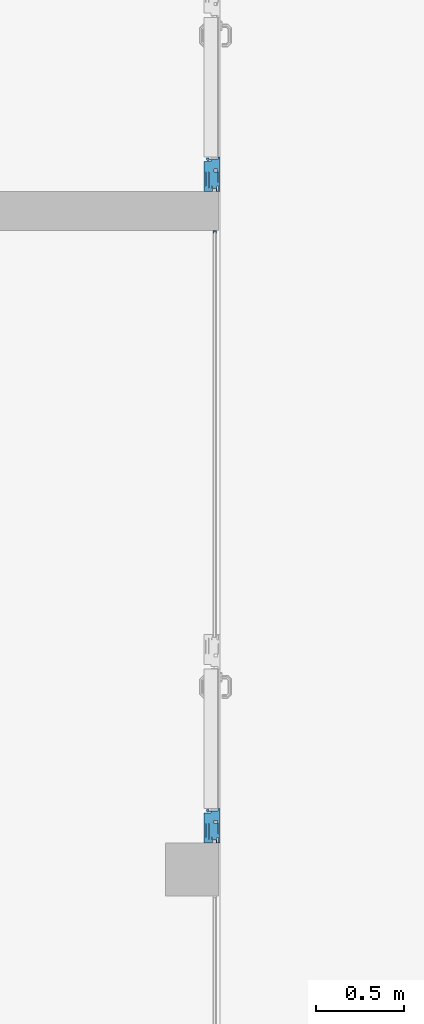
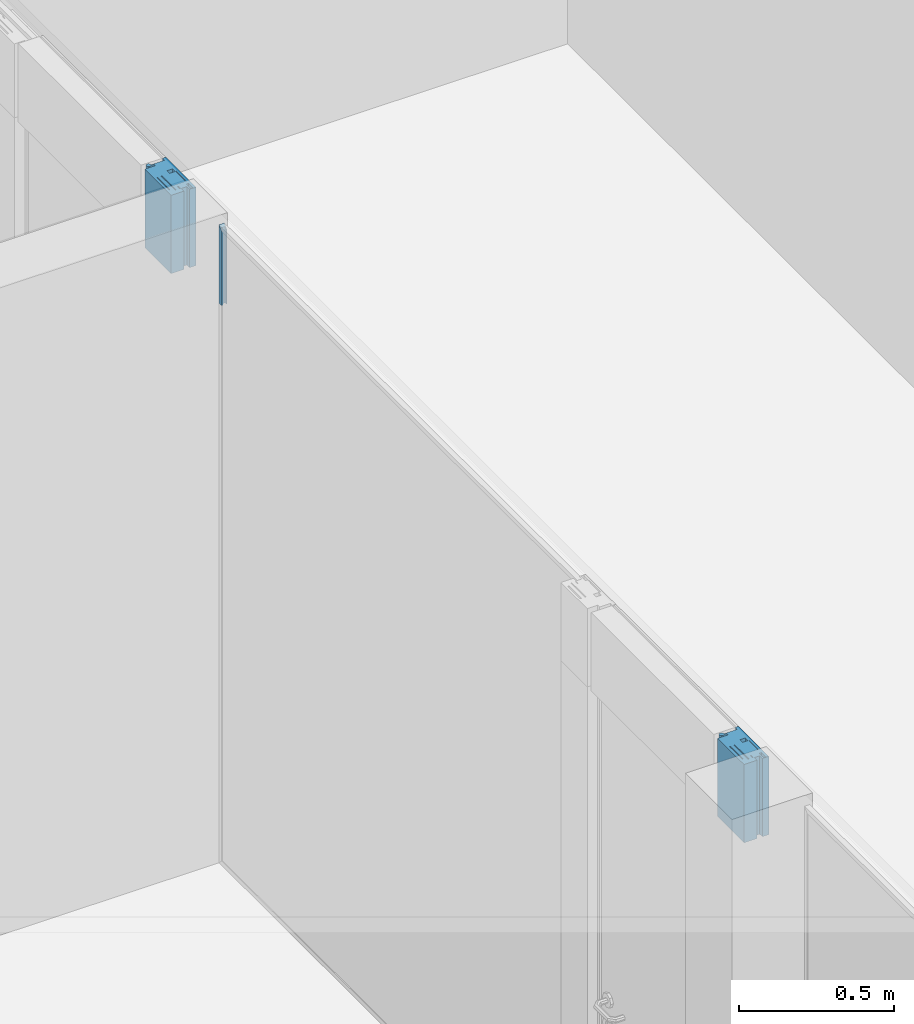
# One storey, part 17 of 79: 3 members, 2 elements without a shape of their own.
"""IFC2X3 building model written with IfcOpenShell, lengths in millimetres."""

from ifc_helpers import new_model, entity, si_unit, converted_unit, derived_unit, money_unit, direction, frame, origin_with_axes, place, context, subcontext, project, spatial, faceted_brep, source, transform, mapped, material, material_list, type_object, element, aggregate, save


model = new_model("IFC2X3")

# Units and contexts
model_context = context("Model", 3, precision=0.01, world=origin_with_axes(), true_north=direction((0.0, 1.0)))
body_context = subcontext(model_context, "Body", "Model", "MODEL_VIEW")
ifc_project = project(units=[si_unit("LENGTHUNIT", "METRE", prefix="MILLI"), si_unit("AREAUNIT", "SQUARE_METRE"), si_unit("VOLUMEUNIT", "CUBIC_METRE"), converted_unit("PLANEANGLEUNIT", "DEGREE", entity("IfcPlaneAngleMeasure", 0.0174532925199), si_unit("PLANEANGLEUNIT", "RADIAN"), dimensions=[0, 0, 0, 0, 0, 0, 0]), si_unit("SOLIDANGLEUNIT", "STERADIAN"), money_unit("EUR"), converted_unit("TIMEUNIT", "Year", entity("IfcTimeMeasure", 31556926.0), si_unit("TIMEUNIT", "SECOND"), dimensions=[0, 0, 1, 0, 0, 0, 0]), si_unit("MASSUNIT", "GRAM", prefix="KILO"), si_unit("THERMODYNAMICTEMPERATUREUNIT", "DEGREE_CELSIUS"), si_unit("LUMINOUSINTENSITYUNIT", "LUMEN"), si_unit("ENERGYUNIT", "JOULE", prefix="MEGA"), derived_unit("THERMALCONDUCTANCEUNIT", [(si_unit("POWERUNIT", "WATT"), 1), (si_unit("LENGTHUNIT", "METRE"), -1), (si_unit("THERMODYNAMICTEMPERATUREUNIT", "KELVIN"), -1)]), derived_unit("SPECIFICHEATCAPACITYUNIT", [(si_unit("ENERGYUNIT", "JOULE"), 1), (si_unit("MASSUNIT", "GRAM", prefix="KILO"), -1), (si_unit("THERMODYNAMICTEMPERATUREUNIT", "KELVIN"), -1)]), derived_unit("MASSDENSITYUNIT", [(si_unit("MASSUNIT", "GRAM", prefix="KILO"), 1), (si_unit("VOLUMEUNIT", "CUBIC_METRE"), -1)])], contexts=[model_context])

# Site, building, storey
site_placement = place(None, origin_with_axes())
site = spatial("IfcSite", under=ifc_project, at=site_placement, Name="L.Koidula tn 11b", CompositionType="ELEMENT")
building_placement = place(site_placement, origin_with_axes())
building = spatial("IfcBuilding", under=site, at=building_placement, Name="Rakvere Riigigümnaasium", CompositionType="ELEMENT")
storey_placement = place(building_placement, frame((0.0, 0.0, 3720.0), z_axis=(0.0, 0.0, 1.0), x_axis=(1.0, 0.0, 0.0)))
storey = spatial("IfcBuildingStorey", under=building, at=storey_placement, Name="2.korrus +3,72", CompositionType="ELEMENT", Elevation=3720.0)

# Curtain wall, member
curtain_wall_type = type_object("IfcCurtainWallType", Name="Curtain Wall Type", PredefinedType="NOTDEFINED")
curtain_wall_1_placement = place(storey_placement, frame((41130.915445, 24920.4555468, 0.0), z_axis=(0.0, 0.0, 1.0), x_axis=(1.0, 0.0, 0.0)))
curtain_wall_1 = element("IfcCurtainWall", 1, at=curtain_wall_1_placement, inside=storey, type_object=curtain_wall_type, Name="SKLF-15")
ifc_material_1 = material(Name="Puit")
ifc_material_2 = material(Name="Klaasvill")
ifc_material_3 = material(Name="MDF")
ifc_material_4 = material(Name="Alumiiniumprofiil")
ifc_material_5 = material(Name="Teras")
ifc_material_list_1 = material_list([ifc_material_1, ifc_material_2, ifc_material_3, ifc_material_4, ifc_material_5])
member_type_1 = type_object("IfcMemberType", Name="Siseklaasfassaad - Ukseraam hing- klaasita-2 195 x 29", PredefinedType="MULLION")
shared_shape_1 = source(origin_with_axes(), body_context, "Body", "Brep", [
    faceted_brep([(139.859682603, -15.116905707, 0.0), (181.717061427, -15.116905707, 0.0), (181.717061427, -15.116905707, 308.0), (139.859682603, -15.116905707, 308.0), (139.859682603, 50.9999990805, 0.0), (169.859682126, 50.9999990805, 0.0), (169.859683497, 23.9999989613, 0.0), (178.395629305, 23.9999989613, 0.0), (178.395629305, -8.00000062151, 0.0), (181.855103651, -8.00000062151, 0.0), (181.855103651, -15.116905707, 0.0), (181.855103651, -15.116905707, 308.0), (181.855103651, -8.00000062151, 308.0), (178.395629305, -8.00000062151, 308.0), (178.395629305, 23.9999989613, 308.0), (169.859683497, 23.9999989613, 308.0), (169.859682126, 50.9999990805, 308.0), (139.859682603, 50.9999990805, 308.0)], [[[0, 1, 2, 3]], [[0, 4, 5, 6, 7, 8, 9, 10, 1]], [[1, 10, 11, 2]], [[3, 2, 11, 12, 13, 14, 15, 16, 17]], [[4, 0, 3, 17]], [[5, 4, 17, 16]], [[6, 5, 16, 15]], [[7, 6, 15, 14]], [[8, 7, 14, 13]], [[9, 8, 13, 12]], [[10, 9, 12, 11]]]),
    faceted_brep([(31.9999999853, 20.4981590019, 0.0), (31.9999999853, 17.3999984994, 0.0), (31.9999999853, 17.3999984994, 308.0), (31.9999999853, 20.4981590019, 308.0), (109.856776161, 20.498157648, 0.0), (109.856777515, 5.39999855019, 0.0), (109.856777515, -15.0000008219, 0.0), (109.856777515, -16.9999999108, 0.0), (50.0000012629, -17.0000026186, 0.0), (31.9999999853, -16.9999999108, 0.0), (31.9999999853, -10.9998686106, 0.0), (31.9999999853, -4.99999996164, 0.0), (31.9999999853, -4.99999996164, 308.0), (31.9999999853, -10.9998686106, 308.0), (31.9999999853, -16.9999999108, 308.0), (50.0000012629, -17.0000026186, 308.0), (109.856777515, -16.9999999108, 308.0), (109.856777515, -15.0000008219, 308.0), (109.856777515, 5.39999855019, 308.0), (109.856776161, 20.498157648, 308.0)], [[[0, 1, 2, 3]], [[0, 4, 5, 6, 7, 8, 9, 10, 11, 1]], [[1, 11, 12, 2]], [[3, 2, 12, 13, 14, 15, 16, 17, 18, 19]], [[4, 0, 3, 19]], [[5, 4, 19, 18]], [[6, 5, 18, 17]], [[7, 6, 17, 16]], [[8, 7, 16, 15]], [[9, 8, 15, 14]], [[10, 9, 14, 13]], [[11, 10, 13, 12]]]),
    faceted_brep([(2.00000016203, -18.9999768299, 0.0), (2.00000016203, -28.9999775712, 0.0), (2.00000016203, -28.9999775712, 308.0), (2.00000016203, -18.9999768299, 308.0), (29.9999993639, -18.9999998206, 0.0), (31.9999995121, -18.9999998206, 0.0), (50.0000008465, -18.9999998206, 0.0), (109.856776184, -18.9999797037, 0.0), (192.859682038, -18.9999768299, 0.0), (192.859682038, -28.9999775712, 0.0), (192.859682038, -28.9999775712, 308.0), (192.859682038, -18.9999768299, 308.0), (109.856776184, -18.9999797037, 308.0), (50.0000008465, -18.9999998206, 308.0), (31.9999995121, -18.9999998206, 308.0), (29.9999993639, -18.9999998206, 308.0)], [[[0, 1, 2, 3]], [[0, 4, 5, 6, 7, 8, 9, 1]], [[1, 9, 10, 2]], [[3, 2, 10, 11, 12, 13, 14, 15]], [[4, 0, 3, 15]], [[5, 4, 15, 14]], [[6, 5, 14, 13]], [[7, 6, 13, 12]], [[8, 7, 12, 11]], [[9, 8, 11, 10]]]),
    faceted_brep([(167.859682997, 63.0000007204, 0.0), (1.99999972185, 62.9999978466, 0.0), (1.99999972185, 62.9999978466, 308.0), (167.859682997, 63.0000007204, 308.0), (167.859682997, 52.9999999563, 0.0), (139.859683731, 52.9999999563, 0.0), (109.85677599, 52.9999999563, 0.0), (29.9999989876, 52.9999970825, 0.0), (18.6712801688, 52.9999970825, 0.0), (1.99999972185, 52.9999999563, 0.0), (1.99999972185, 52.9999999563, 308.0), (18.6712801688, 52.9999970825, 308.0), (29.9999989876, 52.9999970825, 308.0), (109.85677599, 52.9999999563, 308.0), (139.859683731, 52.9999999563, 308.0), (167.859682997, 52.9999999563, 308.0)], [[[0, 1, 2, 3]], [[0, 4, 5, 6, 7, 8, 9, 1]], [[1, 9, 10, 2]], [[3, 2, 10, 11, 12, 13, 14, 15]], [[4, 0, 3, 15]], [[5, 4, 15, 14]], [[6, 5, 14, 13]], [[7, 6, 13, 12]], [[8, 7, 12, 11]], [[9, 8, 11, 10]]]),
    faceted_brep([(18.9999998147, 33.492630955, 0.0), (18.9999998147, 20.5001075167, 0.0), (18.9999998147, 20.5001075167, 308.0), (18.9999998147, 33.492630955, 308.0), (109.856776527, 33.4906812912, 0.0), (109.856776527, 20.4981578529, 0.0), (31.9999999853, 20.4981590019, 0.0), (31.9999999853, 20.4981590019, 308.0), (109.856776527, 20.4981578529, 308.0), (109.856776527, 33.4906812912, 308.0)], [[[0, 1, 2, 3]], [[0, 4, 5, 6, 1]], [[1, 6, 7, 2]], [[3, 2, 7, 8, 9]], [[4, 0, 3, 9]], [[5, 4, 9, 8]], [[6, 5, 8, 7]]]),
    faceted_brep([(109.854989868, 49.9999988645, 0.0), (19.0000000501, 50.0001085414, 0.0), (19.0000000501, 50.0001085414, 308.0), (109.854989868, 49.9999988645, 308.0), (109.854989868, 36.9999990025, 0.0), (19.0000000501, 37.0001070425, 0.0), (19.0000000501, 37.0001070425, 308.0), (109.854989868, 36.9999990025, 308.0)], [[[0, 1, 2, 3]], [[0, 4, 5, 1]], [[1, 5, 6, 2]], [[3, 2, 6, 7]], [[4, 0, 3, 7]], [[5, 4, 7, 6]]]),
    faceted_brep([(109.856776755, 52.9999991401, 0.0), (109.854989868, 49.9999988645, 0.0), (109.854989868, 49.9999988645, 308.0), (109.856776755, 52.9999991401, 308.0), (139.859682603, 52.9999991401, 0.0), (167.859682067, 52.9999991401, 0.0), (167.859682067, 62.9999994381, 0.0), (169.859682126, 62.9999994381, 0.0), (169.859682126, 54.9999991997, 0.0), (169.859682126, 50.9999990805, 0.0), (139.859682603, 50.9999990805, 0.0), (139.859682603, -15.116905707, 0.0), (181.717061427, -15.116905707, 0.0), (181.717061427, -17.0000002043, 0.0), (194.859682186, -17.0000002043, 0.0), (194.859682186, -20.0740464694, 0.0), (194.859682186, -29.0000005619, 0.0), (192.859683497, -29.0000005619, 0.0), (192.859683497, -18.9999783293, 0.0), (109.856776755, -18.9999783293, 0.0), (109.856777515, -16.9999999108, 0.0), (109.856776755, -15.0000001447, 0.0), (126.859682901, -15.0000001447, 0.0), (126.859682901, 5.39999991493, 0.0), (109.856776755, 5.39999991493, 0.0), (109.856776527, 20.4981578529, 0.0), (109.856776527, 33.4906812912, 0.0), (109.854989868, 36.9999990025, 0.0), (109.854989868, 36.9999990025, 308.0), (109.856776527, 33.4906812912, 308.0), (109.856776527, 20.4981578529, 308.0), (109.856776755, 5.39999991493, 308.0), (126.859682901, 5.39999991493, 308.0), (126.859682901, -15.0000001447, 308.0), (109.856776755, -15.0000001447, 308.0), (109.856777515, -16.9999999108, 308.0), (109.856776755, -18.9999783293, 308.0), (192.859683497, -18.9999783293, 308.0), (192.859683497, -29.0000005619, 308.0), (194.859682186, -29.0000005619, 308.0), (194.859682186, -20.0740464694, 308.0), (194.859682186, -17.0000002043, 308.0), (181.717061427, -17.0000002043, 308.0), (181.717061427, -15.116905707, 308.0), (139.859682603, -15.116905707, 308.0), (139.859682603, 50.9999990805, 308.0), (169.859682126, 50.9999990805, 308.0), (169.859682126, 54.9999991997, 308.0), (169.859682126, 62.9999994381, 308.0), (167.859682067, 62.9999994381, 308.0), (167.859682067, 52.9999991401, 308.0), (139.859682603, 52.9999991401, 308.0)], [[[0, 1, 2, 3]], [[0, 4, 5, 6, 7, 8, 9, 10, 11, 12, 13, 14, 15, 16, 17, 18, 19, 20, 21, 22, 23, 24, 25, 26, 27, 1]], [[1, 27, 28, 2]], [[3, 2, 28, 29, 30, 31, 32, 33, 34, 35, 36, 37, 38, 39, 40, 41, 42, 43, 44, 45, 46, 47, 48, 49, 50, 51]], [[4, 0, 3, 51]], [[5, 4, 51, 50]], [[6, 5, 50, 49]], [[7, 6, 49, 48]], [[8, 7, 48, 47]], [[9, 8, 47, 46]], [[10, 9, 46, 45]], [[11, 10, 45, 44]], [[12, 11, 44, 43]], [[13, 12, 43, 42]], [[14, 13, 42, 41]], [[15, 14, 41, 40]], [[16, 15, 40, 39]], [[17, 16, 39, 38]], [[18, 17, 38, 37]], [[19, 18, 37, 36]], [[20, 19, 36, 35]], [[21, 20, 35, 34]], [[22, 21, 34, 33]], [[23, 22, 33, 32]], [[24, 23, 32, 31]], [[25, 24, 31, 30]], [[26, 25, 30, 29]], [[27, 26, 29, 28]]]),
    faceted_brep([(0.0, 62.9999994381, 0.0), (0.0, 15.3999992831, 0.0), (0.0, 15.3999992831, 308.0), (0.0, 62.9999994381, 308.0), (1.99999958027, 62.9999994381, 0.0), (2.00000095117, 52.999998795, 0.0), (18.6712817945, 52.999998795, 0.0), (29.9999991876, 52.999998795, 0.0), (29.9999991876, 50.0001084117, 0.0), (19.0000008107, 50.0001084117, 0.0), (19.0000000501, 37.0001070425, 0.0), (18.9999998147, 33.492630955, 0.0), (18.9999998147, 20.5001075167, 0.0), (19.0000008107, 17.3999988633, 0.0), (32.0000001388, 17.3999988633, 0.0), (32.0000001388, -5.0, 0.0), (32.0000001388, -10.9998685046, 0.0), (32.0000001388, -17.0000015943, 0.0), (50.0000004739, -17.0000015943, 0.0), (50.0000004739, -18.9999998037, 0.0), (32.0000001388, -18.9999998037, 0.0), (30.0000005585, -18.9999998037, 0.0), (30.0000005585, -17.0000015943, 0.0), (30.0000005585, -10.9998685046, 0.0), (2.00000095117, -10.9998685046, 0.0), (2.00000016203, -18.9999768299, 0.0), (2.00000095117, -28.9999785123, 0.0), (0.0, -28.9999785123, 0.0), (0.0, -5.0, 0.0), (2.00000095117, -5.0, 0.0), (16.9999998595, -5.0, 0.0), (16.9999998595, 15.3999992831, 0.0), (16.9999998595, 15.3999992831, 308.0), (16.9999998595, -5.0, 308.0), (2.00000095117, -5.0, 308.0), (0.0, -5.0, 308.0), (0.0, -28.9999785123, 308.0), (2.00000095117, -28.9999785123, 308.0), (2.00000016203, -18.9999768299, 308.0), (2.00000095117, -10.9998685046, 308.0), (30.0000005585, -10.9998685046, 308.0), (30.0000005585, -17.0000015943, 308.0), (30.0000005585, -18.9999998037, 308.0), (32.0000001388, -18.9999998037, 308.0), (50.0000004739, -18.9999998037, 308.0), (50.0000004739, -17.0000015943, 308.0), (32.0000001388, -17.0000015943, 308.0), (32.0000001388, -10.9998685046, 308.0), (32.0000001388, -5.0, 308.0), (32.0000001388, 17.3999988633, 308.0), (19.0000008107, 17.3999988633, 308.0), (18.9999998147, 20.5001075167, 308.0), (18.9999998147, 33.492630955, 308.0), (19.0000000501, 37.0001070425, 308.0), (19.0000008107, 50.0001084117, 308.0), (29.9999991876, 50.0001084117, 308.0), (29.9999991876, 52.999998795, 308.0), (18.6712817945, 52.999998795, 308.0), (2.00000095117, 52.999998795, 308.0), (1.99999958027, 62.9999994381, 308.0)], [[[0, 1, 2, 3]], [[0, 4, 5, 6, 7, 8, 9, 10, 11, 12, 13, 14, 15, 16, 17, 18, 19, 20, 21, 22, 23, 24, 25, 26, 27, 28, 29, 30, 31, 1]], [[1, 31, 32, 2]], [[3, 2, 32, 33, 34, 35, 36, 37, 38, 39, 40, 41, 42, 43, 44, 45, 46, 47, 48, 49, 50, 51, 52, 53, 54, 55, 56, 57, 58, 59]], [[4, 0, 3, 59]], [[5, 4, 59, 58]], [[6, 5, 58, 57]], [[7, 6, 57, 56]], [[8, 7, 56, 55]], [[9, 8, 55, 54]], [[10, 9, 54, 53]], [[11, 10, 53, 52]], [[12, 11, 52, 51]], [[13, 12, 51, 50]], [[14, 13, 50, 49]], [[15, 14, 49, 48]], [[16, 15, 48, 47]], [[17, 16, 47, 46]], [[18, 17, 46, 45]], [[19, 18, 45, 44]], [[20, 19, 44, 43]], [[21, 20, 43, 42]], [[22, 21, 42, 41]], [[23, 22, 41, 40]], [[24, 23, 40, 39]], [[25, 24, 39, 38]], [[26, 25, 38, 37]], [[27, 26, 37, 36]], [[28, 27, 36, 35]], [[29, 28, 35, 34]], [[30, 29, 34, 33]], [[31, 30, 33, 32]]]),
    faceted_brep([(191.287294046, 42.0314837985, 0.0), (189.304437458, 46.4929115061, 0.0), (189.304437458, 46.4929115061, 308.0), (191.287294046, 42.0314837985, 308.0), (191.287294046, 39.5529134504, 0.0), (190.543723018, 37.0712444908, 0.0), (188.808723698, 35.0883879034, 0.0), (186.82586711, 33.6012450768, 0.0), (184.34729599, 32.8576740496, 0.0), (181.86562703, 33.1055313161, 0.0), (181.658588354, 33.5817206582, 0.0), (181.86562703, 32.1141030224, 0.0), (181.855103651, -8.00000062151, 0.0), (178.395628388, -8.00000056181, 0.0), (178.395629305, 23.9999989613, 0.0), (178.395628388, 31.1195761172, 0.0), (178.147771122, 33.1055313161, 0.0), (177.404200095, 34.840530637, 0.0), (176.164914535, 37.3221995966, 0.0), (175.421343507, 39.7976721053, 0.0), (175.421343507, 42.279341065, 0.0), (176.164914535, 44.7579114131, 0.0), (177.652057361, 46.7407680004, 0.0), (179.882770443, 48.227910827, 0.0), (182.364439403, 48.9714818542, 0.0), (184.843010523, 48.9714818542, 0.0), (187.073723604, 47.9800535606, 0.0), (187.073723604, 47.9800535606, 308.0), (184.843010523, 48.9714818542, 308.0), (182.364439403, 48.9714818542, 308.0), (179.882770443, 48.227910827, 308.0), (177.652057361, 46.7407680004, 308.0), (176.164914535, 44.7579114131, 308.0), (175.421343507, 42.279341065, 308.0), (175.421343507, 39.7976721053, 308.0), (176.164914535, 37.3221995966, 308.0), (177.404200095, 34.840530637, 308.0), (178.147771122, 33.1055313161, 308.0), (178.395628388, 31.1195761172, 308.0), (178.395629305, 23.9999989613, 308.0), (178.395628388, -8.00000056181, 308.0), (181.855103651, -8.00000062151, 308.0), (181.86562703, 32.1141030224, 308.0), (181.658588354, 33.5817206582, 308.0), (181.86562703, 33.1055313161, 308.0), (184.34729599, 32.8576740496, 308.0), (186.82586711, 33.6012450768, 308.0), (188.808723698, 35.0883879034, 308.0), (190.543723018, 37.0712444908, 308.0), (191.287294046, 39.5529134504, 308.0)], [[[0, 1, 2, 3]], [[0, 4, 5, 6, 7, 8, 9, 10, 11, 12, 13, 14, 15, 16, 17, 18, 19, 20, 21, 22, 23, 24, 25, 26, 1]], [[1, 26, 27, 2]], [[3, 2, 27, 28, 29, 30, 31, 32, 33, 34, 35, 36, 37, 38, 39, 40, 41, 42, 43, 44, 45, 46, 47, 48, 49]], [[4, 0, 3, 49]], [[5, 4, 49, 48]], [[6, 5, 48, 47]], [[7, 6, 47, 46]], [[8, 7, 46, 45]], [[9, 8, 45, 44]], [[10, 9, 44, 43]], [[11, 10, 43, 42]], [[12, 11, 42, 41]], [[13, 12, 41, 40]], [[14, 13, 40, 39]], [[15, 14, 39, 38]], [[16, 15, 38, 37]], [[17, 16, 37, 36]], [[18, 17, 36, 35]], [[19, 18, 35, 34]], [[20, 19, 34, 33]], [[21, 20, 33, 32]], [[22, 21, 32, 31]], [[23, 22, 31, 30]], [[24, 23, 30, 29]], [[25, 24, 29, 28]], [[26, 25, 28, 27]]]),
])
member_1_placement = place(curtain_wall_1_placement, frame((-0.021911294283, -519.999999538, 2200.0), z_axis=(0.0, 0.0, 1.0), x_axis=(-4.21371043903e-05, -0.999999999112, 0.0)))
member_1 = element("IfcMember", 2, at=member_1_placement, type_object=member_type_1, material=ifc_material_list_1, Name="Frame-Siseklaasf-001", ObjectType="MULLION", context=body_context, shape_type="MappedRepresentation", body=[
    mapped(shared_shape_1, transform((0.0, 0.0, 0.0), x_axis=(-1.0, 0.0, 0.0), y_axis=(0.0, -1.0, 0.0), z_axis=(0.0, 0.0, 1.0))),
])

curtain_wall_2_placement = place(storey_placement, frame((41130.915445, 28609.9592257, 0.0), z_axis=(0.0, 0.0, 1.0), x_axis=(1.0, 0.0, 0.0)))
curtain_wall_2 = element("IfcCurtainWall", 3, at=curtain_wall_2_placement, inside=storey, type_object=curtain_wall_type, Name="SKLF-16")
member_2_placement = place(curtain_wall_2_placement, frame((-0.021911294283, -519.999999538, 2200.0), z_axis=(0.0, 0.0, 1.0), x_axis=(-4.21371043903e-05, -0.999999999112, 0.0)))
member_2 = element("IfcMember", 4, at=member_2_placement, type_object=member_type_1, material=ifc_material_list_1, Name="PV-SKLF-01-raam", ObjectType="MULLION", context=body_context, shape_type="MappedRepresentation", body=[
    mapped(shared_shape_1, transform((0.0, 0.0, 0.0), x_axis=(-1.0, 0.0, 0.0), y_axis=(0.0, -1.0, 0.0), z_axis=(0.0, 0.0, 1.0))),
])
aggregate(curtain_wall_2, [member_2])

# Member
ifc_material_list_2 = material_list([ifc_material_2, ifc_material_4])
member_type_2 = type_object("IfcMemberType", Name="Boundary Frame 17 x 1", PredefinedType="MULLION")
shared_shape_2 = source(origin_with_axes(), body_context, "Body", "Brep", [
    faceted_brep([(-2.00001937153, -5.0, 0.0), (-2.00001937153, -5.0, 305.999980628), (-8.35001937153, -5.0, 299.649980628), (-8.35001937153, -5.0, 0.0), (-2.00001937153, 9.01614452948, 0.0), (-2.00001937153, 9.01614452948, 305.999980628), (-8.35001937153, 9.01614452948, 299.649980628), (-8.35001937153, 9.01614452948, 0.0)], [[[0, 1, 2, 3]], [[4, 5, 1, 0]], [[1, 5, 6, 2]], [[3, 2, 6, 7]], [[0, 3, 7, 4]], [[7, 6, 5, 4]]]),
    faceted_brep([(-11.987414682, 9.01614444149, 0.0), (-11.987414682, 9.01614444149, 296.012585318), (-12.004489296, 7.03075035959, 295.995510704), (-12.004489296, 7.03075035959, 0.0), (-15.5126239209, 9.01614444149, 0.0), (-15.5126239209, 9.01614444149, 292.487376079), (-15.7655837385, 8.03853257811, 292.234416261), (-15.4955493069, 7.03075035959, 292.504450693), (-14.75780152, 6.29300257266, 293.24219848), (-13.7500193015, 6.02296814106, 294.249980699), (-12.742237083, 6.29300257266, 295.257762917), (-12.742237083, 6.29300257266, 0.0), (-13.7500193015, 6.02296814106, 0.0), (-14.75780152, 6.29300257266, 0.0), (-15.4955493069, 7.03075035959, 0.0), (-15.7655837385, 8.03853257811, 0.0)], [[[0, 1, 2, 3]], [[4, 5, 1, 0]], [[1, 5, 6, 7, 8, 9, 10, 2]], [[3, 2, 10, 11]], [[0, 3, 11, 12, 13, 14, 15, 4]], [[15, 6, 5, 4]], [[14, 7, 6, 15]], [[13, 8, 7, 14]], [[12, 9, 8, 13]], [[11, 10, 9, 12]]]),
    faceted_brep([(0.0, -8.0, 0.0), (0.0, -8.0, 308.0), (-17.0000193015, -8.0, 290.999980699), (-17.0000193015, -8.0, 0.0), (0.0, 12.0, 0.0), (0.0, 12.0, 308.0), (-17.0000193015, 12.0, 290.999980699), (-17.0000193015, 9.01614444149, 290.999980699), (-15.5126239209, 9.01614444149, 292.487376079), (-11.987414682, 9.01614444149, 296.012585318), (-8.35001937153, 9.01614452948, 299.649980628), (-2.00001930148, 9.01614444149, 305.999980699), (-2.00001930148, -5.0, 305.999980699), (-8.35001937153, -5.0, 299.649980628), (-17.0000193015, -5.0, 290.999980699), (-17.0000193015, -5.0, 0.0), (-8.35001937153, -5.0, 0.0), (-2.00001930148, -5.0, 0.0), (-2.00001930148, 9.01614444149, 0.0), (-8.35001937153, 9.01614452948, 0.0), (-11.987414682, 9.01614444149, 0.0), (-15.5126239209, 9.01614444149, 0.0), (-17.0000193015, 9.01614444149, 0.0), (-17.0000193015, 12.0, 0.0)], [[[0, 1, 2, 3]], [[4, 5, 1, 0]], [[1, 5, 6, 7, 8, 9, 10, 11, 12, 13, 14, 2]], [[3, 2, 14, 15]], [[0, 3, 15, 16, 17, 18, 19, 20, 21, 22, 23, 4]], [[23, 6, 5, 4]], [[22, 7, 6, 23]], [[21, 8, 7, 22]], [[20, 9, 8, 21]], [[19, 10, 9, 20]], [[18, 11, 10, 19]], [[17, 12, 11, 18]], [[16, 13, 12, 17]], [[15, 14, 13, 16]]]),
])
member_3_placement = place(curtain_wall_1_placement, frame((0.124283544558, 2949.50367938, 2200.0), z_axis=(0.0, 0.0, 1.0), x_axis=(-4.21371043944e-05, -0.999999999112, 0.0)))
member_3 = element("IfcMember", 5, at=member_3_placement, type_object=member_type_2, material=ifc_material_list_2, Name="PV-SKLF-48-raam", ObjectType="MULLION", context=body_context, shape_type="MappedRepresentation", body=[
    mapped(shared_shape_2, transform((0.0, 0.0, 0.0), x_axis=(-1.0, 0.0, 0.0), y_axis=(0.0, -1.0, 0.0), z_axis=(0.0, 0.0, 1.0))),
])

aggregate(curtain_wall_1, [member_1, member_3])

save(model, "model.ifc")
